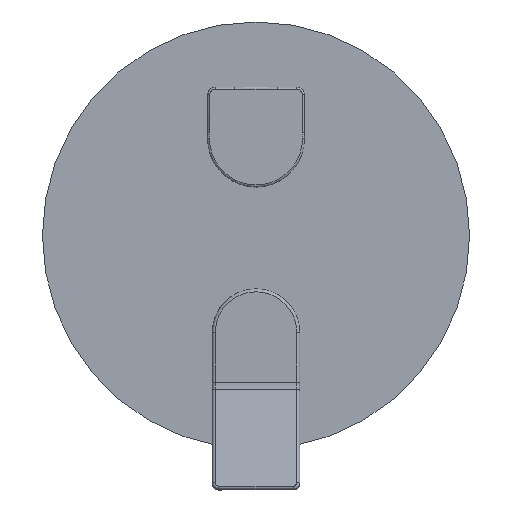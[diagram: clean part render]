
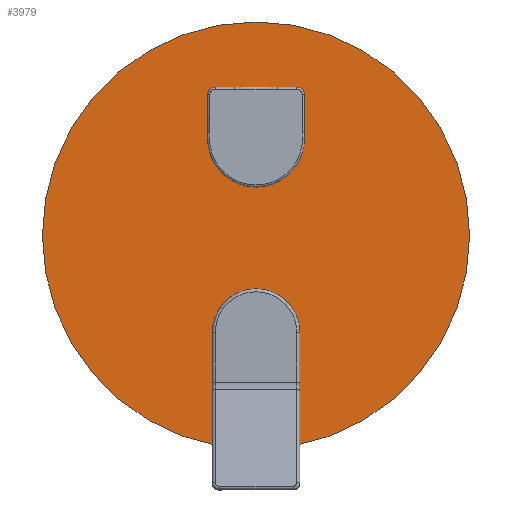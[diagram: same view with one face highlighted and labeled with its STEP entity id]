
A CAD part, top view. The second image highlights one B-rep face of the part: STEP entity #3979.
In plain terms, the highlighted planar face has unit normal (0, 0, 1).
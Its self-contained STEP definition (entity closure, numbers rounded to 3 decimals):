
#13 = EDGE_CURVE ( 'NONE', #2458, #3506, #2900, .T. ) ;
#30 = CARTESIAN_POINT ( 'NONE',  ( -28.785, 6.082, 222.912 ) ) ;
#57 = AXIS2_PLACEMENT_3D ( 'NONE', #255, #306, #2309 ) ;
#85 = CIRCLE ( 'NONE', #2077, 21.2 ) ;
#130 = AXIS2_PLACEMENT_3D ( 'NONE', #861, #2228, #3627 ) ;
#131 = DIRECTION ( 'NONE',  ( 1., 0., 0. ) ) ;
#164 = EDGE_LOOP ( 'NONE', ( #846, #2677 ) ) ;
#177 = CARTESIAN_POINT ( 'NONE',  ( -28.785, 6.082, 222.912 ) ) ;
#230 = DIRECTION ( 'NONE',  ( -1., 0., 0. ) ) ;
#232 = CIRCLE ( 'NONE', #2613, 21.2 ) ;
#236 = CIRCLE ( 'NONE', #2181, 110. ) ;
#254 = EDGE_CURVE ( 'NONE', #3088, #1454, #232, .T. ) ;
#255 = CARTESIAN_POINT ( 'NONE',  ( -28.785, 56.082, 222.912 ) ) ;
#290 = ORIENTED_EDGE ( 'NONE', *, *, #1462, .T. ) ;
#306 = DIRECTION ( 'NONE',  ( 0., 0., 1. ) ) ;
#412 = EDGE_CURVE ( 'NONE', #1720, #1294, #236, .T. ) ;
#493 = CARTESIAN_POINT ( 'NONE',  ( -53.785, 56.082, 222.912 ) ) ;
#583 = CARTESIAN_POINT ( 'NONE',  ( -28.785, -43.918, 222.912 ) ) ;
#637 = DIRECTION ( 'NONE',  ( 1., 0., 0. ) ) ;
#681 = CARTESIAN_POINT ( 'NONE',  ( -7.393, -46.418, 222.912 ) ) ;
#694 = AXIS2_PLACEMENT_3D ( 'NONE', #2442, #3475, #2501 ) ;
#709 = FACE_BOUND ( 'NONE', #164, .T. ) ;
#734 = EDGE_LOOP ( 'NONE', ( #1120, #2711 ) ) ;
#756 = CIRCLE ( 'NONE', #1690, 22.5 ) ;
#789 = CIRCLE ( 'NONE', #1575, 110. ) ;
#846 = ORIENTED_EDGE ( 'NONE', *, *, #1399, .T. ) ;
#861 = CARTESIAN_POINT ( 'NONE',  ( -28.785, 56.082, 222.912 ) ) ;
#871 = DIRECTION ( 'NONE',  ( 1., 0., 0. ) ) ;
#962 = ORIENTED_EDGE ( 'NONE', *, *, #412, .T. ) ;
#1071 = PLANE ( 'NONE',  #694 ) ;
#1120 = ORIENTED_EDGE ( 'NONE', *, *, #3766, .F. ) ;
#1129 = LINE ( 'NONE', #3943, #1606 ) ;
#1217 = DIRECTION ( 'NONE',  ( 1., 0., 0. ) ) ;
#1238 = DIRECTION ( 'NONE',  ( 1., 0., 0. ) ) ;
#1245 = DIRECTION ( 'NONE',  ( 0., 0., -1. ) ) ;
#1263 = ORIENTED_EDGE ( 'NONE', *, *, #2670, .T. ) ;
#1294 = VERTEX_POINT ( 'NONE', #1496 ) ;
#1367 = CARTESIAN_POINT ( 'NONE',  ( -3.785, 56.082, 222.912 ) ) ;
#1399 = EDGE_CURVE ( 'NONE', #1454, #3088, #85, .T. ) ;
#1454 = VERTEX_POINT ( 'NONE', #2891 ) ;
#1462 = EDGE_CURVE ( 'NONE', #1294, #1720, #789, .T. ) ;
#1478 = VERTEX_POINT ( 'NONE', #493 ) ;
#1496 = CARTESIAN_POINT ( 'NONE',  ( -138.785, 6.082, 222.912 ) ) ;
#1506 = CIRCLE ( 'NONE', #57, 25. ) ;
#1575 = AXIS2_PLACEMENT_3D ( 'NONE', #177, #3304, #1217 ) ;
#1591 = DIRECTION ( 'NONE',  ( 1., 0., 0. ) ) ;
#1592 = DIRECTION ( 'NONE',  ( 0., 0., 1. ) ) ;
#1606 = VECTOR ( 'NONE', #131, 1000. ) ;
#1680 = DIRECTION ( 'NONE',  ( 1., 0., 0. ) ) ;
#1690 = AXIS2_PLACEMENT_3D ( 'NONE', #583, #1245, #637 ) ;
#1720 = VERTEX_POINT ( 'NONE', #1945 ) ;
#1757 = EDGE_CURVE ( 'NONE', #2765, #2458, #2284, .T. ) ;
#1882 = ORIENTED_EDGE ( 'NONE', *, *, #3477, .T. ) ;
#1906 = CARTESIAN_POINT ( 'NONE',  ( -55.285, -46.418, 222.912 ) ) ;
#1945 = CARTESIAN_POINT ( 'NONE',  ( 81.215, 6.082, 222.912 ) ) ;
#2077 = AXIS2_PLACEMENT_3D ( 'NONE', #3259, #2958, #1238 ) ;
#2181 = AXIS2_PLACEMENT_3D ( 'NONE', #30, #3433, #1680 ) ;
#2218 = EDGE_CURVE ( 'NONE', #1478, #3949, #1506, .T. ) ;
#2228 = DIRECTION ( 'NONE',  ( 0., 0., 1. ) ) ;
#2284 = CIRCLE ( 'NONE', #2936, 21.529 ) ;
#2298 = VERTEX_POINT ( 'NONE', #3319 ) ;
#2309 = DIRECTION ( 'NONE',  ( -1., 0., 0. ) ) ;
#2420 = FACE_OUTER_BOUND ( 'NONE', #3545, .T. ) ;
#2442 = CARTESIAN_POINT ( 'NONE',  ( -28.785, 9.394, 222.912 ) ) ;
#2458 = VERTEX_POINT ( 'NONE', #681 ) ;
#2501 = DIRECTION ( 'NONE',  ( -1., 0., 0. ) ) ;
#2542 = CIRCLE ( 'NONE', #130, 25. ) ;
#2613 = AXIS2_PLACEMENT_3D ( 'NONE', #3977, #2625, #871 ) ;
#2625 = DIRECTION ( 'NONE',  ( 0., 0., -1. ) ) ;
#2670 = EDGE_CURVE ( 'NONE', #2298, #2765, #1129, .T. ) ;
#2677 = ORIENTED_EDGE ( 'NONE', *, *, #254, .T. ) ;
#2711 = ORIENTED_EDGE ( 'NONE', *, *, #2218, .F. ) ;
#2755 = EDGE_LOOP ( 'NONE', ( #4324, #1882, #1263, #4122 ) ) ;
#2765 = VERTEX_POINT ( 'NONE', #4007 ) ;
#2891 = CARTESIAN_POINT ( 'NONE',  ( -7.585, -43.918, 222.912 ) ) ;
#2900 = LINE ( 'NONE', #1906, #3710 ) ;
#2936 = AXIS2_PLACEMENT_3D ( 'NONE', #3063, #1592, #230 ) ;
#2958 = DIRECTION ( 'NONE',  ( 0., 0., -1. ) ) ;
#3063 = CARTESIAN_POINT ( 'NONE',  ( -28.785, -43.989, 222.912 ) ) ;
#3088 = VERTEX_POINT ( 'NONE', #3850 ) ;
#3259 = CARTESIAN_POINT ( 'NONE',  ( -28.785, -43.918, 222.912 ) ) ;
#3304 = DIRECTION ( 'NONE',  ( 0., 0., 1. ) ) ;
#3319 = CARTESIAN_POINT ( 'NONE',  ( -51.145, -46.418, 222.912 ) ) ;
#3433 = DIRECTION ( 'NONE',  ( 0., 0., 1. ) ) ;
#3475 = DIRECTION ( 'NONE',  ( 0., 0., -1. ) ) ;
#3477 = EDGE_CURVE ( 'NONE', #3506, #2298, #756, .T. ) ;
#3506 = VERTEX_POINT ( 'NONE', #3656 ) ;
#3545 = EDGE_LOOP ( 'NONE', ( #290, #962 ) ) ;
#3627 = DIRECTION ( 'NONE',  ( -1., 0., 0. ) ) ;
#3656 = CARTESIAN_POINT ( 'NONE',  ( -6.424, -46.418, 222.912 ) ) ;
#3710 = VECTOR ( 'NONE', #1591, 1000. ) ;
#3766 = EDGE_CURVE ( 'NONE', #3949, #1478, #2542, .T. ) ;
#3823 = FACE_BOUND ( 'NONE', #734, .T. ) ;
#3850 = CARTESIAN_POINT ( 'NONE',  ( -49.985, -43.918, 222.912 ) ) ;
#3943 = CARTESIAN_POINT ( 'NONE',  ( -55.285, -46.418, 222.912 ) ) ;
#3949 = VERTEX_POINT ( 'NONE', #1367 ) ;
#3977 = CARTESIAN_POINT ( 'NONE',  ( -28.785, -43.918, 222.912 ) ) ;
#3979 = ADVANCED_FACE ( 'NONE', ( #2420, #3823, #709, #4175 ), #1071, .F. ) ;
#4007 = CARTESIAN_POINT ( 'NONE',  ( -50.177, -46.418, 222.912 ) ) ;
#4122 = ORIENTED_EDGE ( 'NONE', *, *, #1757, .T. ) ;
#4175 = FACE_BOUND ( 'NONE', #2755, .T. ) ;
#4324 = ORIENTED_EDGE ( 'NONE', *, *, #13, .T. ) ;
